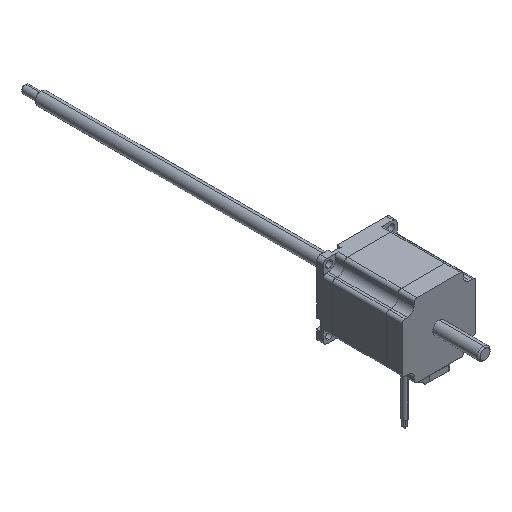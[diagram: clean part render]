
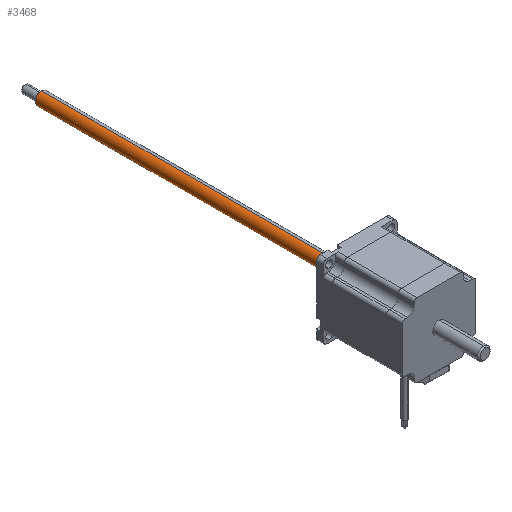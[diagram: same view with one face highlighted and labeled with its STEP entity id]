
A CAD part, isometric view. The second image highlights one B-rep face of the part: STEP entity #3468.
In plain terms, the highlighted cylindrical face has radius 4.763 mm (diameter 9.525 mm), a partial arc.
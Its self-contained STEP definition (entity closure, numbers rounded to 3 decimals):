
#27 = LINE ( 'NONE', #1300, #5240 ) ;
#354 = DIRECTION ( 'NONE',  ( 0., 0., 1. ) ) ;
#426 = VECTOR ( 'NONE', #5372, 1000. ) ;
#487 = CIRCLE ( 'NONE', #5482, 4.763 ) ;
#660 = EDGE_CURVE ( 'NONE', #5451, #1429, #3095, .T. ) ;
#753 = DIRECTION ( 'NONE',  ( 0., 0., 1. ) ) ;
#817 = VERTEX_POINT ( 'NONE', #850 ) ;
#850 = CARTESIAN_POINT ( 'NONE',  ( 0., 6.5, 4.763 ) ) ;
#875 = DIRECTION ( 'NONE',  ( 0., 1., 0. ) ) ;
#879 = CARTESIAN_POINT ( 'NONE',  ( 0., 242., 0. ) ) ;
#962 = AXIS2_PLACEMENT_3D ( 'NONE', #879, #1364, #4485 ) ;
#1278 = EDGE_CURVE ( 'NONE', #817, #2232, #27, .T. ) ;
#1300 = CARTESIAN_POINT ( 'NONE',  ( 0., -95., 4.763 ) ) ;
#1364 = DIRECTION ( 'NONE',  ( 0., -1., 0. ) ) ;
#1429 = VERTEX_POINT ( 'NONE', #4234 ) ;
#1842 = CARTESIAN_POINT ( 'NONE',  ( 0., -95., -4.763 ) ) ;
#1854 = EDGE_CURVE ( 'NONE', #2232, #1429, #4441, .T. ) ;
#1925 = EDGE_CURVE ( 'NONE', #5451, #817, #487, .T. ) ;
#1970 = EDGE_LOOP ( 'NONE', ( #5276, #3599, #2912, #4999 ) ) ;
#2232 = VERTEX_POINT ( 'NONE', #3443 ) ;
#2261 = CARTESIAN_POINT ( 'NONE',  ( 0., -95., 0. ) ) ;
#2912 = ORIENTED_EDGE ( 'NONE', *, *, #1278, .T. ) ;
#3095 = LINE ( 'NONE', #1842, #426 ) ;
#3314 = DIRECTION ( 'NONE',  ( 0., 1., 0. ) ) ;
#3443 = CARTESIAN_POINT ( 'NONE',  ( 0., 242., 4.763 ) ) ;
#3468 = ADVANCED_FACE ( 'NONE', ( #5917 ), #5763, .T. ) ;
#3599 = ORIENTED_EDGE ( 'NONE', *, *, #1925, .T. ) ;
#4132 = AXIS2_PLACEMENT_3D ( 'NONE', #2261, #3314, #354 ) ;
#4234 = CARTESIAN_POINT ( 'NONE',  ( 0., 242., -4.763 ) ) ;
#4441 = CIRCLE ( 'NONE', #962, 4.763 ) ;
#4485 = DIRECTION ( 'NONE',  ( 0., 0., 1. ) ) ;
#4829 = CARTESIAN_POINT ( 'NONE',  ( 0., 6.5, 0. ) ) ;
#4999 = ORIENTED_EDGE ( 'NONE', *, *, #1854, .T. ) ;
#5135 = CARTESIAN_POINT ( 'NONE',  ( 0., 6.5, -4.763 ) ) ;
#5240 = VECTOR ( 'NONE', #5704, 1000. ) ;
#5276 = ORIENTED_EDGE ( 'NONE', *, *, #660, .F. ) ;
#5372 = DIRECTION ( 'NONE',  ( 0., 1., 0. ) ) ;
#5451 = VERTEX_POINT ( 'NONE', #5135 ) ;
#5482 = AXIS2_PLACEMENT_3D ( 'NONE', #4829, #875, #753 ) ;
#5704 = DIRECTION ( 'NONE',  ( 0., 1., 0. ) ) ;
#5763 = CYLINDRICAL_SURFACE ( 'NONE', #4132, 4.763 ) ;
#5917 = FACE_OUTER_BOUND ( 'NONE', #1970, .T. ) ;
